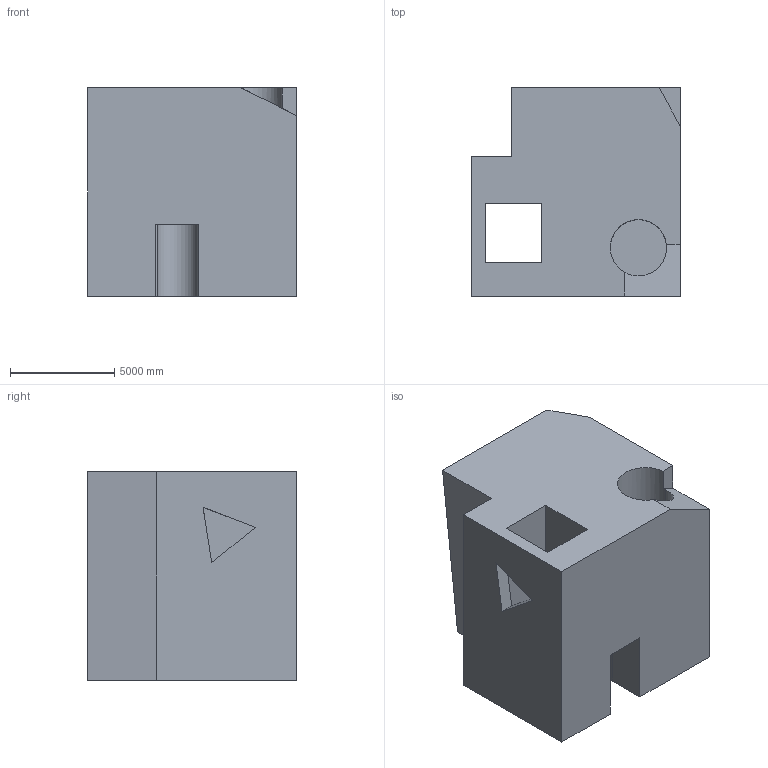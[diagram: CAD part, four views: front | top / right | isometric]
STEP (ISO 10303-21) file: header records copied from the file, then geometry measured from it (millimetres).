
FILE_DESCRIPTION (( 'STEP AP203' ), '1' );
FILE_NAME ('679.STEP', '2022-07-29T12:28:56', ( 'user' ), ( '' ), 'SwSTEP 2.0', 'SolidWorks 2021', '' );
FILE_SCHEMA (( 'CONFIG_CONTROL_DESIGN' ));
Length unit declared in the file: centimetre
Products named in the file (1): 679
Bounding box: 10000 x 10000 x 10000 mm (x, y, z)
Volume: 778680232115.5 mm3; surface area: 727343025.1 mm2
Topology: 1 solids, 1 shells, 27 faces, 81 edges, 54 vertices
Faces by surface type: plane 24, cylinder 3
Entity records: 986 total; most frequent: CARTESIAN_POINT 169, ORIENTED_EDGE 162, DIRECTION 141, EDGE_CURVE 81, LINE 73, VECTOR 73, VERTEX_POINT 54, AXIS2_PLACEMENT_3D 34
